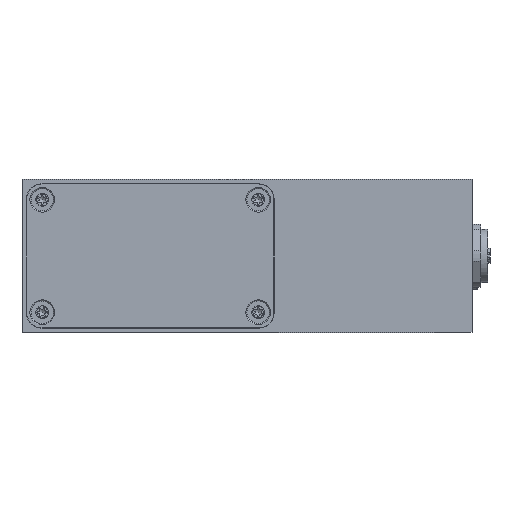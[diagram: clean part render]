
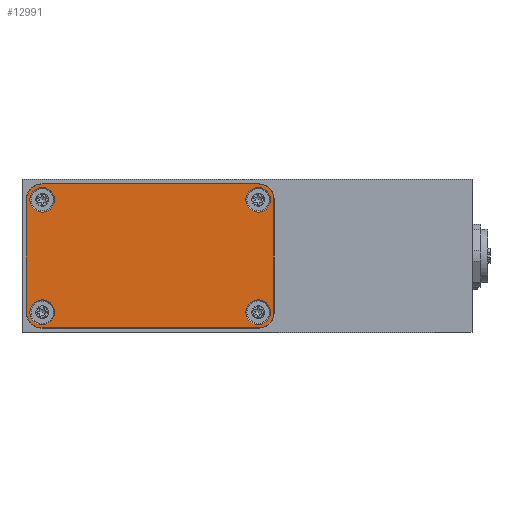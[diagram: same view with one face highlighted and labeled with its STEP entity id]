
A CAD part, front view. The second image highlights one B-rep face of the part: STEP entity #12991.
In plain terms, the highlighted planar face has unit normal (0, -1, 0).
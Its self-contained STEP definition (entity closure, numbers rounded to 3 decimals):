
#746=FACE_BOUND($,#3995,.T.);
#747=FACE_BOUND($,#3996,.T.);
#748=FACE_BOUND($,#3997,.T.);
#749=FACE_BOUND($,#3998,.T.);
#750=FACE_BOUND($,#3999,.T.);
#1225=LINE($,#24693,#2005);
#1226=LINE($,#24697,#2006);
#1227=LINE($,#24701,#2007);
#1228=LINE($,#24705,#2008);
#2005=VECTOR($,#16521,48.);
#2006=VECTOR($,#16524,25.);
#2007=VECTOR($,#16527,48.);
#2008=VECTOR($,#16530,25.);
#3995=EDGE_LOOP($,(#9743));
#3996=EDGE_LOOP($,(#9744));
#3997=EDGE_LOOP($,(#9745));
#3998=EDGE_LOOP($,(#9746));
#3999=EDGE_LOOP($,(#9747,#9748,#9749,#9750,#9751,#9752,#9753,#9754));
#4783=CIRCLE($,#14094,2.75);
#4784=CIRCLE($,#14095,2.75);
#4785=CIRCLE($,#14096,2.75);
#4786=CIRCLE($,#14097,2.75);
#4787=CIRCLE($,#14098,3.5);
#4788=CIRCLE($,#14099,3.5);
#4789=CIRCLE($,#14100,3.5);
#4790=CIRCLE($,#14101,3.5);
#5645=VERTEX_POINT($,#24683);
#5646=VERTEX_POINT($,#24685);
#5647=VERTEX_POINT($,#24687);
#5648=VERTEX_POINT($,#24689);
#5649=VERTEX_POINT($,#24691);
#5650=VERTEX_POINT($,#24692);
#5651=VERTEX_POINT($,#24694);
#5652=VERTEX_POINT($,#24696);
#5653=VERTEX_POINT($,#24698);
#5654=VERTEX_POINT($,#24700);
#5655=VERTEX_POINT($,#24702);
#5656=VERTEX_POINT($,#24704);
#7155=EDGE_CURVE($,#5645,#5645,#4783,.T.);
#7156=EDGE_CURVE($,#5646,#5646,#4784,.T.);
#7157=EDGE_CURVE($,#5647,#5647,#4785,.T.);
#7158=EDGE_CURVE($,#5648,#5648,#4786,.T.);
#7159=EDGE_CURVE($,#5649,#5650,#1225,.T.);
#7160=EDGE_CURVE($,#5651,#5649,#4787,.T.);
#7161=EDGE_CURVE($,#5652,#5651,#1226,.T.);
#7162=EDGE_CURVE($,#5653,#5652,#4788,.T.);
#7163=EDGE_CURVE($,#5654,#5653,#1227,.T.);
#7164=EDGE_CURVE($,#5655,#5654,#4789,.T.);
#7165=EDGE_CURVE($,#5656,#5655,#1228,.T.);
#7166=EDGE_CURVE($,#5650,#5656,#4790,.T.);
#9743=ORIENTED_EDGE($,*,*,#7155,.T.);
#9744=ORIENTED_EDGE($,*,*,#7156,.T.);
#9745=ORIENTED_EDGE($,*,*,#7157,.T.);
#9746=ORIENTED_EDGE($,*,*,#7158,.T.);
#9747=ORIENTED_EDGE($,*,*,#7159,.F.);
#9748=ORIENTED_EDGE($,*,*,#7160,.F.);
#9749=ORIENTED_EDGE($,*,*,#7161,.F.);
#9750=ORIENTED_EDGE($,*,*,#7162,.F.);
#9751=ORIENTED_EDGE($,*,*,#7163,.F.);
#9752=ORIENTED_EDGE($,*,*,#7164,.F.);
#9753=ORIENTED_EDGE($,*,*,#7165,.F.);
#9754=ORIENTED_EDGE($,*,*,#7166,.F.);
#11711=PLANE($,#14093);
#12991=ADVANCED_FACE($,(#746,#747,#748,#749,#750),#11711,.T.);
#14093=AXIS2_PLACEMENT_3D($,#24682,#16511,#16512);
#14094=AXIS2_PLACEMENT_3D($,#24684,#16513,#16514);
#14095=AXIS2_PLACEMENT_3D($,#24686,#16515,#16516);
#14096=AXIS2_PLACEMENT_3D($,#24688,#16517,#16518);
#14097=AXIS2_PLACEMENT_3D($,#24690,#16519,#16520);
#14098=AXIS2_PLACEMENT_3D($,#24695,#16522,#16523);
#14099=AXIS2_PLACEMENT_3D($,#24699,#16525,#16526);
#14100=AXIS2_PLACEMENT_3D($,#24703,#16528,#16529);
#14101=AXIS2_PLACEMENT_3D($,#24706,#16531,#16532);
#16511=DIRECTION('center_axis',(0.,-1.,0.));
#16512=DIRECTION('ref_axis',(1.,0.,0.));
#16513=DIRECTION('center_axis',(0.,1.,0.));
#16514=DIRECTION('ref_axis',(1.,0.,0.));
#16515=DIRECTION('center_axis',(0.,1.,0.));
#16516=DIRECTION('ref_axis',(1.,0.,0.));
#16517=DIRECTION('center_axis',(0.,1.,0.));
#16518=DIRECTION('ref_axis',(1.,0.,0.));
#16519=DIRECTION('center_axis',(0.,1.,0.));
#16520=DIRECTION('ref_axis',(1.,0.,0.));
#16521=DIRECTION($,(1.,0.,0.));
#16522=DIRECTION('center_axis',(0.,1.,0.));
#16523=DIRECTION('ref_axis',(0.,0.,-1.));
#16524=DIRECTION($,(0.,0.,1.));
#16525=DIRECTION('center_axis',(0.,1.,0.));
#16526=DIRECTION('ref_axis',(1.,0.,0.));
#16527=DIRECTION($,(-1.,0.,0.));
#16528=DIRECTION('center_axis',(0.,1.,0.));
#16529=DIRECTION('ref_axis',(0.,0.,1.));
#16530=DIRECTION($,(0.,0.,-1.));
#16531=DIRECTION('center_axis',(0.,1.,0.));
#16532=DIRECTION('ref_axis',(-1.,0.,0.));
#24682=CARTESIAN_POINT('Origin',(-21.5,-174.9,17.));
#24683=CARTESIAN_POINT('',(5.25,-174.9,4.5));
#24684=CARTESIAN_POINT('Origin',(2.5,-174.9,4.5));
#24685=CARTESIAN_POINT('',(-42.75,-174.9,29.5));
#24686=CARTESIAN_POINT('Origin',(-45.5,-174.9,29.5));
#24687=CARTESIAN_POINT('',(-42.75,-174.9,4.5));
#24688=CARTESIAN_POINT('Origin',(-45.5,-174.9,4.5));
#24689=CARTESIAN_POINT('',(5.25,-174.9,29.5));
#24690=CARTESIAN_POINT('Origin',(2.5,-174.9,29.5));
#24691=CARTESIAN_POINT('',(-45.5,-174.9,33.));
#24692=CARTESIAN_POINT('',(2.5,-174.9,33.));
#24693=CARTESIAN_POINT($,(-45.5,-174.9,33.));
#24694=CARTESIAN_POINT('',(-49.,-174.9,29.5));
#24695=CARTESIAN_POINT('Origin',(-45.5,-174.9,29.5));
#24696=CARTESIAN_POINT('',(-49.,-174.9,4.5));
#24697=CARTESIAN_POINT($,(-49.,-174.9,4.5));
#24698=CARTESIAN_POINT('',(-45.5,-174.9,1.));
#24699=CARTESIAN_POINT('Origin',(-45.5,-174.9,4.5));
#24700=CARTESIAN_POINT('',(2.5,-174.9,1.));
#24701=CARTESIAN_POINT($,(2.5,-174.9,1.));
#24702=CARTESIAN_POINT('',(6.,-174.9,4.5));
#24703=CARTESIAN_POINT('Origin',(2.5,-174.9,4.5));
#24704=CARTESIAN_POINT('',(6.,-174.9,29.5));
#24705=CARTESIAN_POINT($,(6.,-174.9,29.5));
#24706=CARTESIAN_POINT('Origin',(2.5,-174.9,29.5));
